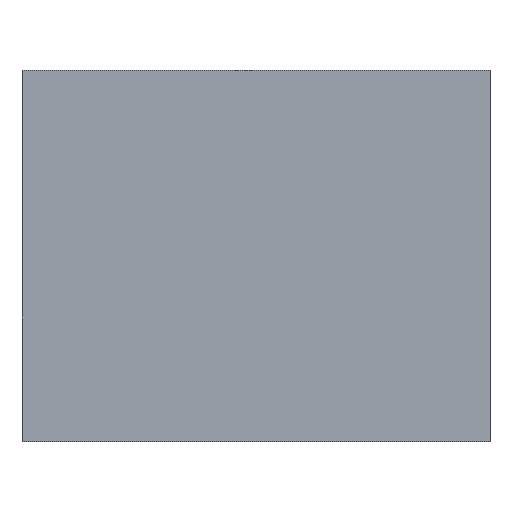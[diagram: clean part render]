
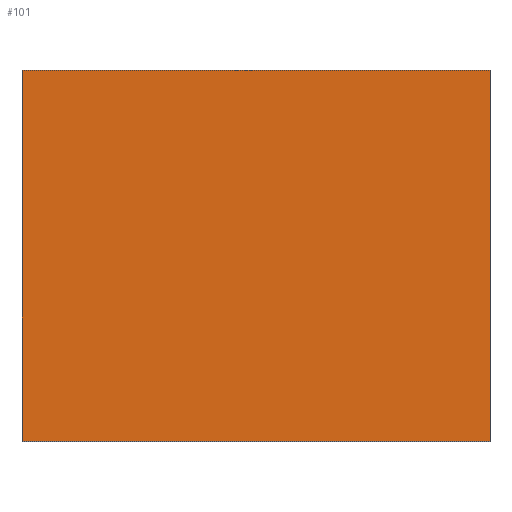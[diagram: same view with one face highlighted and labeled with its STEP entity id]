
A CAD part, top view. The second image highlights one B-rep face of the part: STEP entity #101.
In plain terms, the highlighted planar face has unit normal (0, 0, 1).
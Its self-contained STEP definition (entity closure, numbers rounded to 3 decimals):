
#15=FACE_OUTER_BOUND('',#21,.T.);
#21=EDGE_LOOP('',(#71,#72,#73,#74));
#27=LINE('',#157,#39);
#28=LINE('',#159,#40);
#29=LINE('',#161,#41);
#30=LINE('',#162,#42);
#39=VECTOR('',#131,10.);
#40=VECTOR('',#132,10.);
#41=VECTOR('',#133,10.);
#42=VECTOR('',#134,10.);
#51=VERTEX_POINT('',#155);
#52=VERTEX_POINT('',#156);
#53=VERTEX_POINT('',#158);
#54=VERTEX_POINT('',#160);
#59=EDGE_CURVE('',#51,#52,#27,.T.);
#60=EDGE_CURVE('',#52,#53,#28,.T.);
#61=EDGE_CURVE('',#53,#54,#29,.T.);
#62=EDGE_CURVE('',#54,#51,#30,.T.);
#71=ORIENTED_EDGE('',*,*,#59,.T.);
#72=ORIENTED_EDGE('',*,*,#60,.T.);
#73=ORIENTED_EDGE('',*,*,#61,.T.);
#74=ORIENTED_EDGE('',*,*,#62,.T.);
#95=PLANE('',#121);
#101=ADVANCED_FACE('',(#15),#95,.T.);
#121=AXIS2_PLACEMENT_3D('',#154,#129,#130);
#129=DIRECTION('center_axis',(0.,0.,1.));
#130=DIRECTION('ref_axis',(1.,0.,0.));
#131=DIRECTION('',(0.,1.,0.));
#132=DIRECTION('',(-1.,0.,0.));
#133=DIRECTION('',(0.,-1.,0.));
#134=DIRECTION('',(1.,0.,0.));
#154=CARTESIAN_POINT('Origin',(90.,44.625,151.12));
#155=CARTESIAN_POINT('',(92.05,43.,151.12));
#156=CARTESIAN_POINT('',(92.05,46.25,151.12));
#157=CARTESIAN_POINT('',(92.05,44.625,151.12));
#158=CARTESIAN_POINT('',(87.95,46.25,151.12));
#159=CARTESIAN_POINT('',(90.,46.25,151.12));
#160=CARTESIAN_POINT('',(87.95,43.,151.12));
#161=CARTESIAN_POINT('',(87.95,44.625,151.12));
#162=CARTESIAN_POINT('',(90.,43.,151.12));
